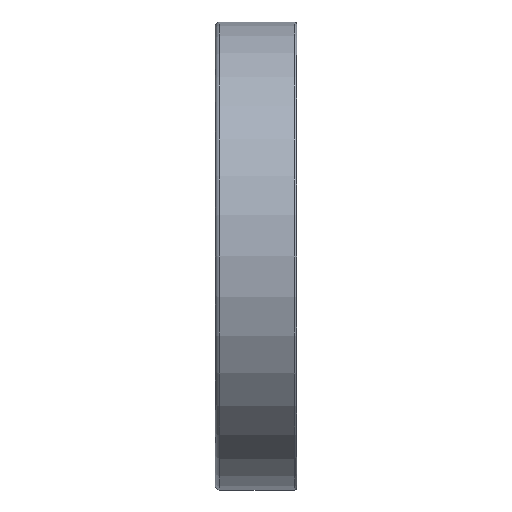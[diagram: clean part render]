
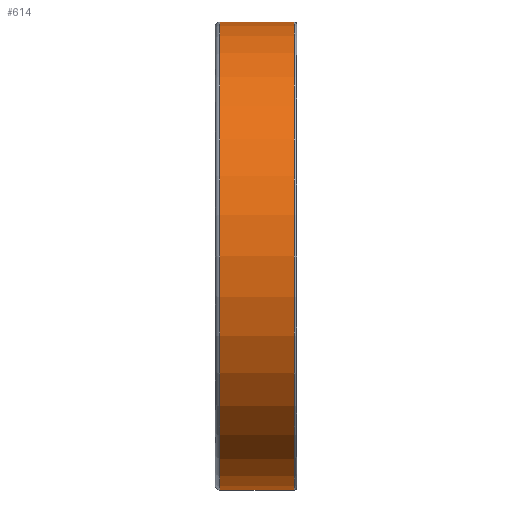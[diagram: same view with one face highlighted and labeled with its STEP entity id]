
A CAD part, front view. The second image highlights one B-rep face of the part: STEP entity #614.
In plain terms, the highlighted cylindrical face has radius 57.5 mm (diameter 115 mm), a full revolution.
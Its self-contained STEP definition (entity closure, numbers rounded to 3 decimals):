
#179=CYLINDRICAL_SURFACE('',#974,57.5);
#295=EDGE_LOOP('',(#423));
#296=EDGE_LOOP('',(#424));
#423=ORIENTED_EDGE('',*,*,#495,.F.);
#424=ORIENTED_EDGE('',*,*,#493,.T.);
#493=EDGE_CURVE('',#893,#893,#513,.T.);
#495=EDGE_CURVE('',#895,#895,#515,.T.);
#513=CIRCLE('',#970,57.5);
#515=CIRCLE('',#973,57.5);
#614=ADVANCED_FACE('',(#779,#780),#179,.T.);
#779=FACE_BOUND('',#295,.T.);
#780=FACE_BOUND('',#296,.T.);
#893=VERTEX_POINT('',#2082);
#895=VERTEX_POINT('',#2087);
#970=AXIS2_PLACEMENT_3D('',#2081,#1110,#1111);
#973=AXIS2_PLACEMENT_3D('',#2086,#1116,#1117);
#974=AXIS2_PLACEMENT_3D('',#2088,#1118,#1119);
#1110=DIRECTION('',(1.,0.,0.));
#1111=DIRECTION('',(0.,0.,-1.));
#1116=DIRECTION('',(1.,0.,0.));
#1117=DIRECTION('',(0.,0.,-1.));
#1118=DIRECTION('',(1.,0.,0.));
#1119=DIRECTION('',(0.,0.,-1.));
#2081=CARTESIAN_POINT('',(-8.9,0.,0.));
#2082=CARTESIAN_POINT('',(-8.9,0.,-57.5));
#2086=CARTESIAN_POINT('',(9.4,0.,0.));
#2087=CARTESIAN_POINT('',(9.4,0.,-57.5));
#2088=CARTESIAN_POINT('',(-8.9,0.,0.));
